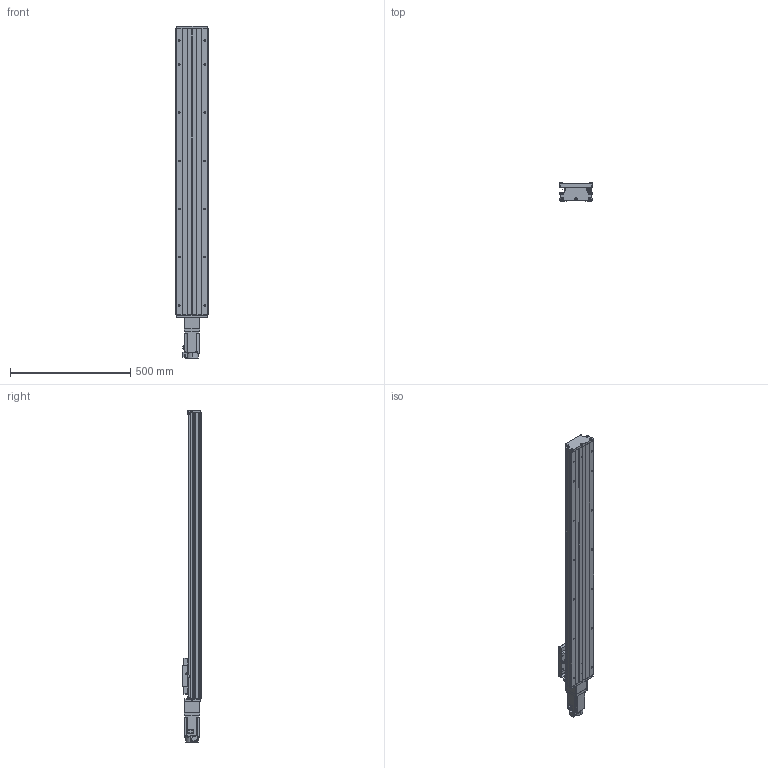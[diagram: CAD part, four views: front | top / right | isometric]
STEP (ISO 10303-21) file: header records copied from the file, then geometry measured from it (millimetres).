
FILE_DESCRIPTION (( 'STEP AP203' ), '1' );
FILE_NAME ('CTH130-1000-BC-M40-C4.step', '2023-06-30T02:30:59', ( '微软用户' ), ( '微软中国' ), 'SwSTEP 2.0', 'SolidWorks 2020', '' );
FILE_SCHEMA (( 'CONFIG_CONTROL_DESIGN' ));
Length unit declared in the file: millimetre
Products named in the file (21): CTH130-002_GTH14-002; EE_SX911P_R; CTHA86-006-1_M40; GB T308.1-2013-6.35; CTHA60-016; CTHA86-013; GTH14-004; GBT 70.1-M3℅5; CTHA86-027-1; GTH14-005; GBT77-2000 M3×3; GBT 70.3-M3℅8; GB1155-6X6; CTH130-031; HG-KN43J-S100; GBT70.1 M5℅16; GBT 70.2-M3¡Á5_M3¡Á6; CTH130-1000-BC-M40-C4; GTH14-001_1000; CTHA60-017; す晦芛蹟隊 M3℅5
Assembly tree (59 placements, depth 2):
  CTH130-1000-BC-M40-C4
    GTH14-001_1000
    CTH130-002_GTH14-002
    GB T308.1-2013-6.35  x2
    GTH14-004
    GTH14-005
    GB1155-6X6  x2
    GBT70.1 M5℅16  x10
    CTHA60-017  x3
    EE_SX911P_R  x3
    CTHA60-016  x2
    GBT 70.1-M3℅5  x6
    GBT77-2000 M3×3  x6
    CTH130-031
    GBT 70.2-M3¡Á5_M3¡Á6  x8
    す晦芛蹟隊 M3℅5  x6
    CTHA86-006-1_M40
    CTHA86-013
    CTHA86-027-1
    GBT 70.3-M3℅8  x2
    HG-KN43J-S100
Bounding box: 135 x 76 x 1378.7 mm (x, y, z)
Volume: 6644750.5 mm3; surface area: 1020319.2 mm2
Topology: 62 solids, 62 shells, 2400 faces, 5729 edges, 3551 vertices
Faces by surface type: plane 1307, cylinder 642, cone 287, torus 120, sphere 24, bspline 20
Entity records: 44296 total; most frequent: CARTESIAN_POINT 9905, DIRECTION 6451, ORIENTED_EDGE 6358, EDGE_CURVE 3179, AXIS2_PLACEMENT_3D 2193, VECTOR 2065, LINE 2065, VERTEX_POINT 2011
